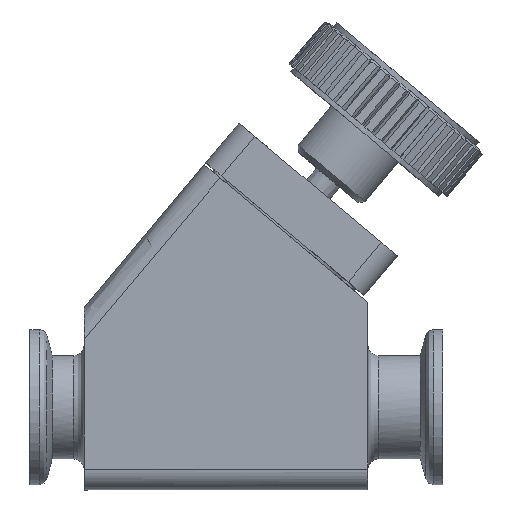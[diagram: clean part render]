
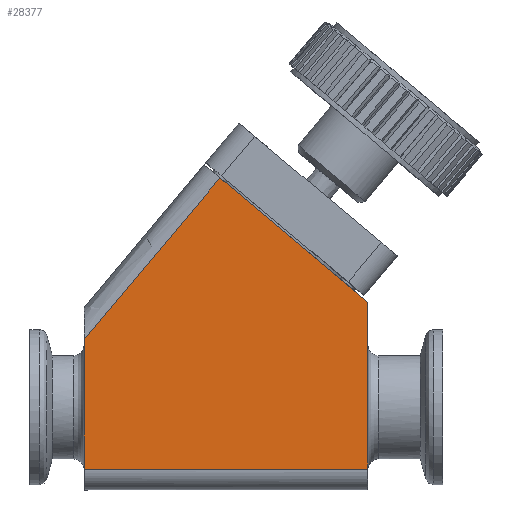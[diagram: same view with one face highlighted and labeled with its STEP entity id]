
A CAD part, top view. The second image highlights one B-rep face of the part: STEP entity #28377.
In plain terms, the highlighted free-form (B-spline) face has degree [1, 1] with [2, 2] control points.
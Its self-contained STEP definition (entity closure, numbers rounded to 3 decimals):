
#28206=CARTESIAN_POINT('V7',(26.335,60.4,
   20.));
#28207=VERTEX_POINT('V7',#28206);
#28230=CARTESIAN_POINT('V22',(55.,36.347,
   20.));
#28231=VERTEX_POINT('V22',#28230);
#28237=CARTESIAN_POINT('E26',(55.,36.347,
   20.));
#28238=CARTESIAN_POINT('E26',(26.335,60.4,
   20.));
#28239=B_SPLINE_CURVE_WITH_KNOTS('E26',1,(#28237,#28238),
   .POLYLINE_FORM.,.F.,.U.,(2,2),(0.163,
   0.82),.UNSPECIFIED.);
#28240=EDGE_CURVE('E26',#28231,#28207,#28239,.T.);
#28287=CARTESIAN_POINT('V5',(0.,29.015,
   20.));
#28288=VERTEX_POINT('V5',#28287);
#28299=CARTESIAN_POINT('V15',(0.,4.,
   20.));
#28300=VERTEX_POINT('V15',#28299);
#28301=CARTESIAN_POINT('E63',(0.,4.,20.0)
   );
#28302=CARTESIAN_POINT('E63',(0.,29.015,
   20.));
#28303=B_SPLINE_CURVE_WITH_KNOTS('E63',1,(#28301,#28302),
   .POLYLINE_FORM.,.F.,.U.,(2,2),(0.114,
   0.823),.UNSPECIFIED.);
#28304=EDGE_CURVE('E63',#28300,#28288,#28303,.T.);
#28347=CARTESIAN_POINT('E8',(26.335,60.4,
   20.));
#28348=CARTESIAN_POINT('E8',(0.,29.015,
   20.));
#28349=B_SPLINE_CURVE_WITH_KNOTS('E8',1,(#28347,#28348),
   .POLYLINE_FORM.,.F.,.U.,(2,2),(2.0,8.521),
   .UNSPECIFIED.);
#28350=EDGE_CURVE('E8',#28207,#28288,#28349,.T.);
#28355=CARTESIAN_POINT('F33',(-2.846,-3.283,
   20.));
#28356=CARTESIAN_POINT('F33',(59.775,-3.283,
   20.));
#28357=CARTESIAN_POINT('F33',(-2.846,68.935,
   20.));
#28358=CARTESIAN_POINT('F33',(59.775,68.935,
   20.));
#28359=QUASI_UNIFORM_SURFACE('F33',1,1,((#28355,#28357),(#28356,
   #28358)),.PLANE_SURF.,.F.,.F.,.U.);
#28360=ORIENTED_EDGE('F3',*,*,#28350,.F.);
#28361=ORIENTED_EDGE('F7',*,*,#28240,.F.);
#28362=CARTESIAN_POINT('V13',(55.,4.,
   20.));
#28363=VERTEX_POINT('V13',#28362);
#28364=CARTESIAN_POINT('E77',(55.,36.347,
   20.0));
#28365=CARTESIAN_POINT('E77',(55.,4.,
   20.0));
#28366=B_SPLINE_CURVE_WITH_KNOTS('E77',1,(#28364,#28365),
   .POLYLINE_FORM.,.F.,.U.,(2,2),(0.018,
   0.892),.UNSPECIFIED.);
#28367=EDGE_CURVE('E77',#28231,#28363,#28366,.T.);
#28368=ORIENTED_EDGE('E77',*,*,#28367,.T.);
#28369=CARTESIAN_POINT('E16',(0.,4.,
   20.));
#28370=CARTESIAN_POINT('E16',(55.,4.,
   20.));
#28371=B_SPLINE_CURVE_WITH_KNOTS('E16',1,(#28369,#28370),
   .POLYLINE_FORM.,.F.,.U.,(2,2),(2.0,10.754),
   .UNSPECIFIED.);
#28372=EDGE_CURVE('E16',#28300,#28363,#28371,.T.);
#28373=ORIENTED_EDGE('E16',*,*,#28372,.F.);
#28374=ORIENTED_EDGE('E63',*,*,#28304,.T.);
#28375=EDGE_LOOP('F33',(#28360,#28361,#28368,#28373,#28374));
#28376=FACE_OUTER_BOUND('F33',#28375,.F.);
#28377=ADVANCED_FACE('F33',(#28376),#28359,.T.);
